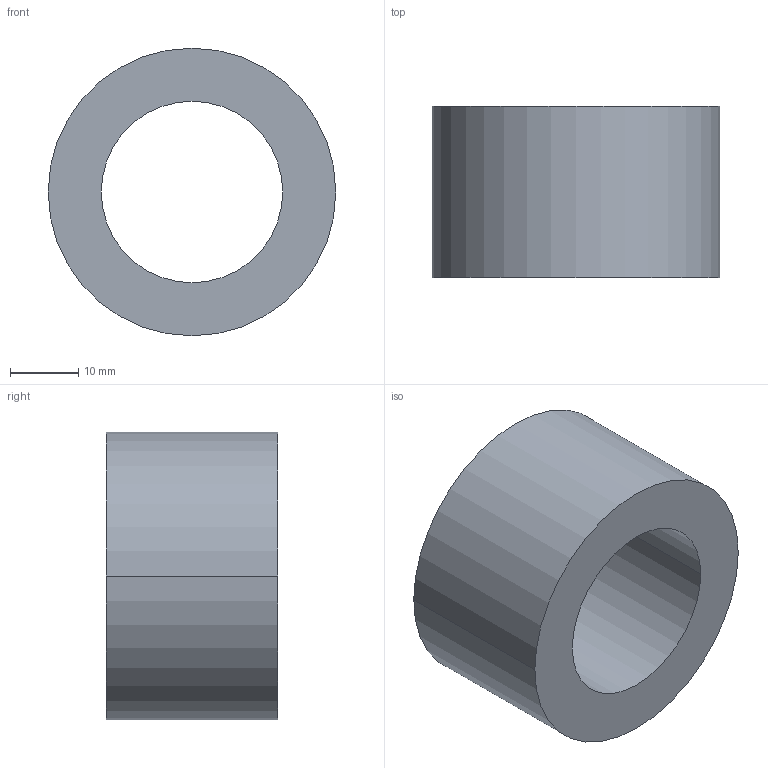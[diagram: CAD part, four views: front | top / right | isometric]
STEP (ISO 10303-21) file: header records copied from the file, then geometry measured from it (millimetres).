
FILE_DESCRIPTION (( 'STEP AP203' ), '1' );
FILE_NAME ('30800.WPP42J26.5.step', '2019-01-23T22:49:51', ( '' ), ( '' ), 'SwSTEP 2.0', 'SolidWorks 2017', '' );
FILE_SCHEMA (( 'CONFIG_CONTROL_DESIGN' ));
Length unit declared in the file: millimetre
Products named in the file (1): 30800.WPP42J26.5
Bounding box: 42 x 25 x 42 mm (x, y, z)
Volume: 20678.5 mm3; surface area: 6944.6 mm2
Topology: 1 solids, 1 shells, 8 faces, 16 edges, 10 vertices
Faces by surface type: cylinder 4, torus 2, plane 2
Entity records: 297 total; most frequent: DIRECTION 46, CARTESIAN_POINT 35, ORIENTED_EDGE 32, AXIS2_PLACEMENT_3D 21, EDGE_CURVE 16, CIRCLE 12, VERTEX_POINT 10, EDGE_LOOP 10
